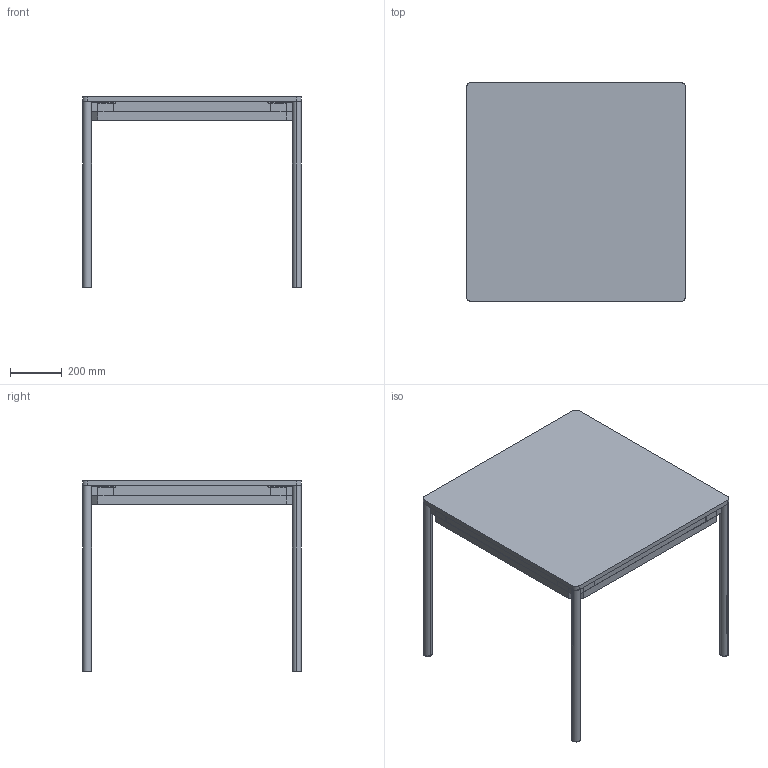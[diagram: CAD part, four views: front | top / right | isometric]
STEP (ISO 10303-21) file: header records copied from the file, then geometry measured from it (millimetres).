
FILE_DESCRIPTION(/* description */ (''),/* implementation_level */ '2;1');
FILE_NAME(/* name */ 'Pieza Dining table (85 x 85 cm)',/* time_stamp */ '2020-02-25T08:21:29+01:00',/* author */ (''),/* organization */ (''),/* preprocessor_version */ 'ST-DEVELOPER v15',/* originating_system */ '',/* authorisation */ '');
FILE_SCHEMA (('AUTOMOTIVE_DESIGN'));
Length unit declared in the file: millimetre
Products named in the file (1): Document
Bounding box: 850 x 850 x 740 mm (x, y, z)
Volume: 15530148.8 mm3; surface area: 3026714.8 mm2
Topology: 25 solids, 29 shells, 558 faces, 1378 edges, 886 vertices
Faces by surface type: bspline 324, plane 234
Entity records: 27217 total; most frequent: CARTESIAN_POINT 18809, ORIENTED_EDGE 2618, EDGE_CURVE 1378, VERTEX_POINT 886, B_SPLINE_CURVE_WITH_KNOTS 756, EDGE_LOOP 694, ADVANCED_FACE 558, FACE_OUTER_BOUND 558
